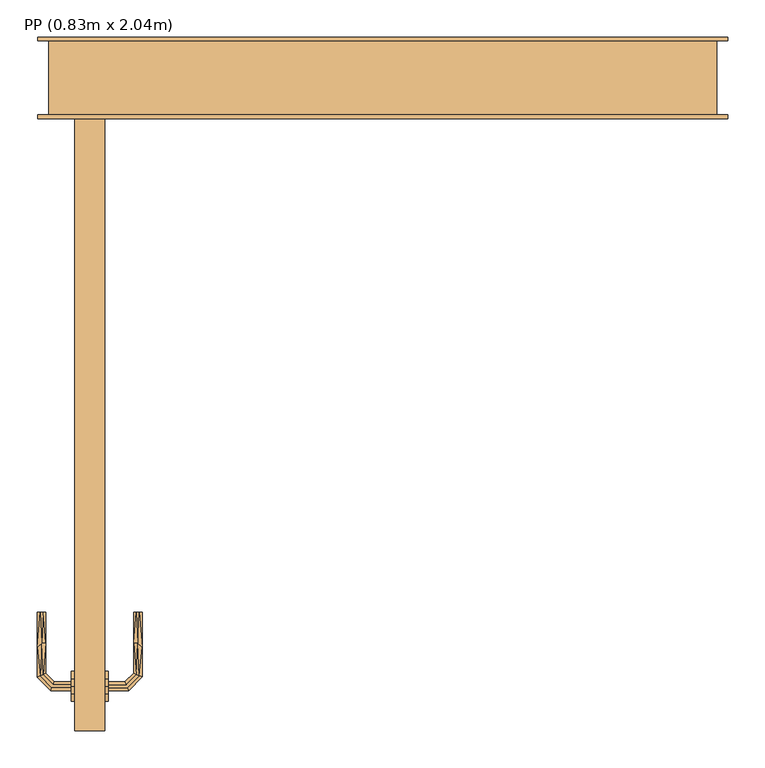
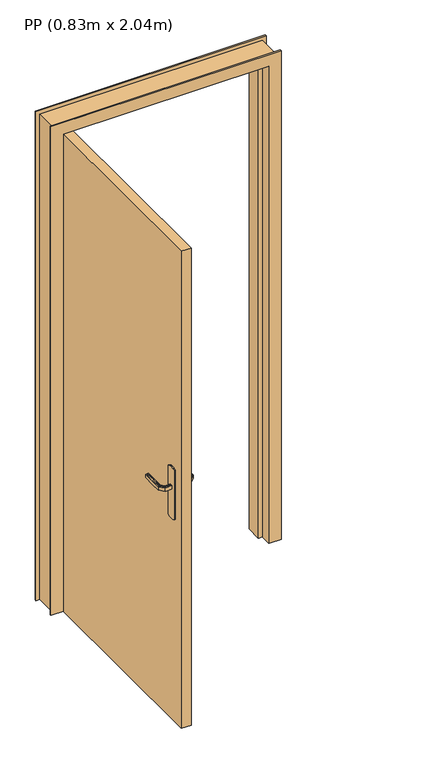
"""IFC4 building model written with IfcOpenShell, lengths in millimetres: door geometry, PP (0.83m x 2.04m)."""

from ifc_helpers import new_model, si_unit, frame, origin, origin_with_axes, place, context, project, spatial, polyline, outline, extrude, faceted_brep, source, transform, mapped, element, save


def pp_0_83m_x_2_04m_0b08dc89(model_context):
    return source(origin(), model_context, "Body", "SolidModel", [
        faceted_brep([(100.0, -767.9747013, 1007.7804408), (100.0, -772.0252987, 1007.7804408), (100.0, -776.0, 1007.0), (100.0, -776.0, 993.0), (100.0, -772.0252987, 992.2195592), (100.0, -767.9747013, 992.2195592), (100.0, -764.0, 993.0), (100.0, -764.0, 1007.0), (73.9954245, -772.0252987, 1007.7804408), (72.3490493, -776.0, 1007.0), (75.6732368, -767.9747013, 1007.7804408), (61.997138, -754.2986025, 1007.7804408), (57.9465407, -755.9764148, 1007.7804408), (77.319612, -764.0, 1007.0), (77.319612, -764.0, 993.0), (75.6732368, -767.9747013, 992.2195592), (73.9954245, -772.0252987, 992.2195592), (57.9465407, -755.9764148, 992.2195592), (61.997138, -754.2986025, 992.2195592), (72.3490493, -776.0, 993.0), (53.9718393, -757.62279, 1007.0), (65.9718393, -752.6522273, 1007.0), (65.9718393, -752.6522273, 993.0), (53.9718393, -757.62279, 993.0), (53.9718393, -669.9813594, 1007.0), (57.9465407, -669.9813594, 1007.7804408), (61.997138, -669.9813594, 1007.7804408), (65.9718393, -669.9813594, 1007.0), (65.9718393, -669.9813594, 993.0), (61.997138, -669.9813594, 992.2195592), (57.9465407, -669.9813594, 992.2195592), (53.9718393, -669.9813594, 993.0), (59.9718393, -712.1399809, 1007.8786868), (53.9718393, -717.6923028, 1007.0), (65.9718393, -711.3167933, 1007.0), (65.9718393, -711.3167933, 993.0), (59.9718392, -712.1399811, 992.1213132), (53.9718393, -717.6923104, 993.0)], [[[0, 1, 2, 3, 4, 5, 6, 7]], [[2, 1, 8, 9]], [[1, 0, 10, 11, 12, 8]], [[0, 7, 13, 10]], [[14, 13, 7, 6]], [[5, 15, 14, 6]], [[5, 4, 16, 17, 18, 15]], [[3, 19, 16, 4]], [[9, 19, 3, 2]], [[9, 8, 12, 20]], [[10, 13, 21, 11]], [[22, 21, 13, 14]], [[14, 15, 18, 22]], [[16, 19, 23, 17]], [[20, 23, 19, 9]], [[24, 25, 26, 27, 28, 29, 30, 31]], [[32, 25, 33]], [[33, 25, 24]], [[33, 20, 12]], [[11, 34, 32]], [[34, 11, 21]], [[27, 26, 34]], [[32, 26, 25]], [[32, 34, 26]], [[32, 33, 12]], [[11, 32, 12]], [[21, 22, 35, 28, 27, 34]], [[36, 29, 35]], [[30, 36, 37]], [[18, 35, 22]], [[29, 28, 35]], [[30, 37, 31]], [[37, 17, 23]], [[36, 17, 37]], [[36, 18, 17]], [[36, 35, 18]], [[29, 36, 30]], [[23, 20, 33, 24, 31, 37]]]),
        extrude(outline(polyline([(-790.0, 870.0), (-790.0, 1080.0), (-780.3527618, 1083.9960169), (-770.0, 1085.3589838), (-759.6472382, 1083.9960169), (-750.0, 1080.0), (-750.0, 870.0), (-759.6472382, 866.0039831), (-770.0, 864.6410162), (-780.3527618, 866.0039831), (-790.0, 870.0)])), frame((100.0, 0.0, 0.0), z_axis=(1.0, 0.0, 0.0), x_axis=(0.0, 1.0, 0.0)), (0.0, 0.0, 1.0), 5.0),
        faceted_brep([(970.0, 100.0, 0.0), (970.0, 0.0, 0.0), (985.0, 0.0, 0.0), (985.0, -5.0, 0.0), (935.0, -5.0, 0.0), (935.0, 40.0, 0.0), (920.0, 40.0, 0.0), (920.0, 105.0, 0.0), (985.0, 105.0, 0.0), (985.0, 100.0, 0.0), (970.0, 100.0, 2075.0), (970.0, 0.0, 2075.0), (985.0, 100.0, 2090.0), (55.0, 100.0, 2090.0), (55.0, 100.0, 0.0), (70.0, 100.0, 0.0), (70.0, 100.0, 2075.0), (920.0, 40.0, 2025.0), (920.0, 105.0, 2025.0), (935.0, 40.0, 2040.0), (105.0, 40.0, 2040.0), (105.0, 40.0, 0.0), (120.0, 40.0, 0.0), (120.0, 40.0, 2025.0), (70.0, 0.0, 0.0), (70.0, 0.0, 2075.0), (55.0, 105.0, 0.0), (120.0, 105.0, 0.0), (105.0, -5.0, 0.0), (55.0, -5.0, 0.0), (55.0, 0.0, 0.0), (120.0, 105.0, 2025.0), (935.0, -5.0, 2040.0), (985.0, -5.0, 2090.0), (55.0, -5.0, 2090.0), (105.0, -5.0, 2040.0), (985.0, 0.0, 2090.0), (55.0, 0.0, 2090.0), (985.0, 105.0, 2090.0), (55.0, 105.0, 2090.0)], [[[0, 1, 2, 3, 4, 5, 6, 7, 8, 9]], [[0, 10, 11, 1]], [[9, 12, 13, 14, 15, 16, 10, 0]], [[7, 6, 17, 18]], [[5, 19, 20, 21, 22, 23, 17, 6]], [[16, 15, 24, 25]], [[15, 14, 26, 27, 22, 21, 28, 29, 30, 24]], [[23, 22, 27, 31]], [[10, 16, 25, 11]], [[17, 23, 31, 18]], [[5, 4, 32, 19]], [[3, 33, 34, 29, 28, 35, 32, 4]], [[2, 36, 33, 3]], [[1, 11, 25, 24, 30, 37, 36, 2]], [[8, 38, 12, 9]], [[7, 18, 31, 27, 26, 39, 38, 8]], [[35, 28, 21, 20]], [[37, 30, 29, 34]], [[39, 26, 14, 13]], [[32, 35, 20, 19]], [[36, 37, 34, 33]], [[38, 39, 13, 12]]]),
        extrude(outline(polyline([(145.0, -830.0), (105.0, -830.0), (105.0, 0.0), (145.0, 0.0), (145.0, -830.0)])), origin_with_axes(), (0.0, 0.0, 1.0), 2040.0),
        extrude(outline(polyline([(-790.0, 870.0), (-790.0, 1080.0), (-780.3527618, 1083.9960169), (-770.0, 1085.3589838), (-759.6472382, 1083.9960169), (-750.0, 1080.0), (-750.0, 870.0), (-759.6472382, 866.0039831), (-770.0, 864.6410162), (-780.3527618, 866.0039831), (-790.0, 870.0)])), frame((145.0, 0.0, 0.0), z_axis=(1.0, 0.0, 0.0), x_axis=(0.0, 1.0, 0.0)), (0.0, 0.0, 1.0), 5.0),
        faceted_brep([(150.0, -767.9747013, 992.2195592), (150.0, -772.0252987, 992.2195592), (150.0, -776.0, 993.0), (150.0, -776.0, 1007.0), (150.0, -772.0252987, 1007.7804408), (150.0, -767.9747013, 1007.7804408), (150.0, -764.0, 1007.0), (150.0, -764.0, 993.0), (172.4852045, -764.0, 1007.0), (172.4852045, -764.0, 993.0), (174.1315797, -767.9747013, 1007.7804408), (175.8093921, -772.0252987, 1007.7804408), (191.9957845, -755.8389062, 1007.7804408), (187.9451872, -754.1610938, 1007.7804408), (177.4557673, -776.0, 1007.0), (177.4557673, -776.0, 993.0), (175.8093921, -772.0252987, 992.2195592), (174.1315797, -767.9747013, 992.2195592), (187.9451872, -754.1610938, 992.2195592), (191.9957845, -755.8389062, 992.2195592), (183.9704859, -752.5147186, 1007.0), (183.9704859, -752.5147186, 993.0), (195.9704859, -757.4852814, 1007.0), (195.9704859, -757.4852814, 993.0), (187.9451872, -669.9542163, 1007.7804408), (191.9957845, -669.9542163, 1007.7804408), (195.9704859, -669.9542163, 1007.0), (195.9704859, -669.9542163, 993.0), (191.9957845, -669.9542163, 992.2195592), (187.9451872, -669.9542163, 992.2195592), (183.9704859, -669.9542163, 993.0), (183.9704859, -669.9542163, 1007.0), (183.9704859, -711.2344675, 1007.0), (183.9704859, -711.2344794, 993.0), (189.9704859, -712.0576551, 1007.8786868), (195.9704859, -717.5547942, 1007.0), (195.9704859, -717.5547957, 993.0), (189.9704858, -712.0576549, 992.1213132)], [[[0, 1, 2, 3, 4, 5, 6, 7]], [[8, 9, 7, 6]], [[5, 10, 8, 6]], [[5, 4, 11, 12, 13, 10]], [[3, 14, 11, 4]], [[14, 3, 2, 15]], [[2, 1, 16, 15]], [[1, 0, 17, 18, 19, 16]], [[0, 7, 9, 17]], [[20, 21, 9, 8]], [[8, 10, 13, 20]], [[14, 22, 12, 11]], [[23, 22, 14, 15]], [[15, 16, 19, 23]], [[17, 9, 21, 18]], [[24, 25, 26, 27, 28, 29, 30, 31]], [[21, 20, 32, 31, 30, 33]], [[34, 24, 32]], [[25, 34, 35]], [[13, 32, 20]], [[24, 31, 32]], [[25, 35, 26]], [[35, 12, 22]], [[34, 12, 35]], [[34, 13, 12]], [[34, 32, 13]], [[24, 34, 25]], [[22, 23, 36, 27, 26, 35]], [[37, 28, 36]], [[36, 28, 27]], [[36, 23, 19]], [[18, 33, 37]], [[33, 18, 21]], [[30, 29, 33]], [[37, 29, 28]], [[37, 33, 29]], [[37, 36, 19]], [[18, 37, 19]]]),
    ])


if __name__ == "__main__":
    model = new_model("IFC4")
    model_context = context("Model", 3, world=origin())
    ifc_project = project(units=[si_unit("LENGTHUNIT", "METRE", prefix="MILLI")], contexts=[model_context])
    site = spatial("IfcSite", under=ifc_project)
    building = spatial("IfcBuilding", under=site)
    placement = place(None, origin())
    pp_0_83m_x_2_04m_shape = pp_0_83m_x_2_04m_0b08dc89(model_context)
    element("IfcDoor", 1, ObjectType="PP (0.83m x 2.04m)", at=placement, inside=building, context=model_context, shape_type="MappedRepresentation", body=[
        mapped(pp_0_83m_x_2_04m_shape, transform((0.0, 0.0, 0.0), x_axis=(1.0, 0.0, 0.0), y_axis=(0.0, 1.0, 0.0), z_axis=(0.0, 0.0, 1.0))),
    ])
    save(model, "model.ifc")
